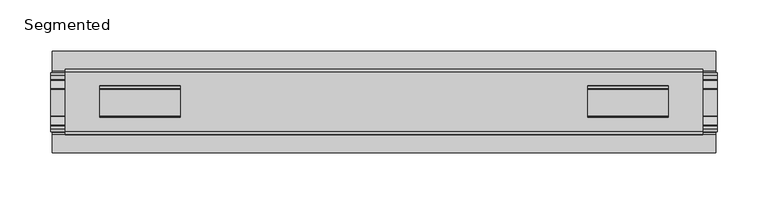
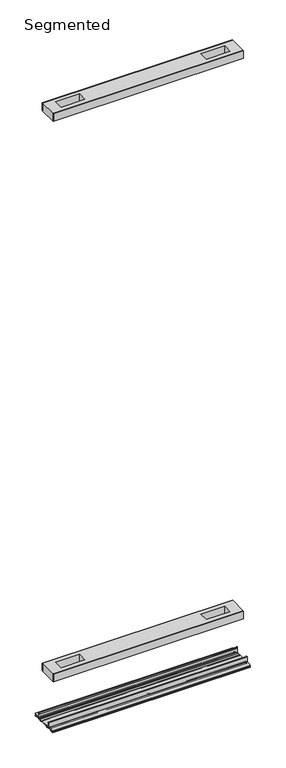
"""IFC4 building model written with IfcOpenShell, lengths in millimetres: proxy geometry, Frame-Teknion-FHCRA-Horizontal_Rail-R2022 : Segmented."""

import ifcopenshell
import ifcopenshell.guid

model = None  # the IFC model being written
_history = None  # IfcOwnerHistory: only IFC2X3 demands one
_inside = {}  # id of a spatial element -> (the spatial element, [elements in it])
_under = {}  # id of a project, library or spatial element -> (it, [spatial elements below it])
_declared = {}  # id of a project -> (the project, [libraries it declares])
_typed = {}  # id of a type object -> (the type object, [elements of that type])
_made_of = {}  # id of a material, layer set ... -> (it, [elements and type objects made of it])


def new_model(schema):
    """Start an empty IFC model of exactly this schema.

    Asked for "IFC4X3", IfcOpenShell would pick the latest addendum, in which some entities
    have other attributes; the version numbers below select the first issue.
    IFC2X3 requires an IfcOwnerHistory on every rooted entity: one is made here for all.
    """
    global model, _history
    if schema == "IFC4X3":
        model = ifcopenshell.file(schema_version=(4, 3, 0, 0))
    else:
        model = ifcopenshell.file(schema=schema)
    _inside.clear()
    _under.clear()
    _declared.clear()
    _typed.clear()
    _made_of.clear()
    _history = None
    if model.schema == "IFC2X3":
        org = make("IfcOrganization", Name="unknown")
        user = make(
            "IfcPersonAndOrganization",
            ThePerson=make("IfcPerson", FamilyName="unknown"),
            TheOrganization=org,
        )
        app = make(
            "IfcApplication",
            ApplicationDeveloper=org,
            Version="unknown",
            ApplicationFullName="unknown",
            ApplicationIdentifier="unknown",
        )
        _history = make(
            "IfcOwnerHistory",
            OwningUser=user,
            OwningApplication=app,
            ChangeAction="ADDED",
            CreationDate=0,
        )
    return model


def make(cls, **values):
    """One entity of the class cls with the attributes given. An attribute that is None is left unset."""
    return model.create_entity(
        cls, **{name: value for name, value in values.items() if value is not None}
    )


def rooted(cls, **values):
    """An entity with a GlobalId (a new one), such as an element, a storey or a relation."""
    return make(cls, GlobalId=ifcopenshell.guid.new(), OwnerHistory=_history, **values)


def si_unit(unit_type, name, prefix=None):
    """IfcSIUnit, for example si_unit("LENGTHUNIT", "METRE", prefix="MILLI")."""
    return make("IfcSIUnit", UnitType=unit_type, Prefix=prefix, Name=name)


def assignment(units):
    """IfcUnitAssignment: the units of a project."""
    return None if units is None else make("IfcUnitAssignment", Units=units)


def point(xyz):
    """IfcCartesianPoint."""
    return None if xyz is None else make("IfcCartesianPoint", Coordinates=xyz)


def direction(xyz):
    """IfcDirection."""
    return None if xyz is None else make("IfcDirection", DirectionRatios=xyz)


def frame(location, z_axis=None, x_axis=None):
    """IfcAxis2Placement3D, a coordinate frame: its origin and axes. An axis left out is left unset."""
    return make(
        "IfcAxis2Placement3D",
        Location=point(location),
        Axis=direction(z_axis),
        RefDirection=direction(x_axis),
    )


def frame_2d(location, x_axis=None):
    """IfcAxis2Placement2D, a coordinate frame in the plane: its origin and x axis."""
    return make(
        "IfcAxis2Placement2D", Location=point(location), RefDirection=direction(x_axis)
    )


def origin():
    """The frame at (0, 0, 0) with its axes left unset."""
    return frame((0.0, 0.0, 0.0))


def place(relative_to, where):
    """IfcLocalPlacement: puts the frame where relative to a parent placement (None: the world)."""
    return make(
        "IfcLocalPlacement", PlacementRelTo=relative_to, RelativePlacement=where
    )


def context(
    kind, dimensions, precision=None, world=None, true_north=None, identifier=None
):
    """IfcGeometricRepresentationContext, for example the 3D "Model" context."""
    return make(
        "IfcGeometricRepresentationContext",
        ContextIdentifier=identifier,
        ContextType=kind,
        CoordinateSpaceDimension=dimensions,
        Precision=precision,
        WorldCoordinateSystem=world,
        TrueNorth=true_north,
    )


def project(units=None, contexts=None):
    """IfcProject with its units and contexts."""
    return rooted(
        "IfcProject",
        Name="project",
        RepresentationContexts=contexts,
        UnitsInContext=assignment(units),
    )


def spatial(cls, under=None, at=None, **own):
    """A site, building, storey or space (cls), placed at a placement, below another one or the project."""
    s = rooted(cls, ObjectPlacement=at, **own)
    if under is not None:
        _under.setdefault(under.id(), (under, []))[1].append(s)
    return s


def polyline(points):
    """IfcPolyline through the points."""
    return make("IfcPolyline", Points=[point(p) for p in points])


def circle_curve(where, radius):
    """IfcCircle in the frame where."""
    return make("IfcCircle", Position=where, Radius=radius)


def trimmed(basis, trim1, trim2, sense, master):
    """IfcTrimmedCurve: the piece of a basis curve between two trims."""
    return make(
        "IfcTrimmedCurve",
        BasisCurve=basis,
        Trim1=trim1,
        Trim2=trim2,
        SenseAgreement=sense,
        MasterRepresentation=master,
    )


def segment(curve, same_sense, transition):
    """IfcCompositeCurveSegment."""
    return make(
        "IfcCompositeCurveSegment",
        Transition=transition,
        SameSense=same_sense,
        ParentCurve=curve,
    )


def composite_curve(segments, self_intersect=None):
    """IfcCompositeCurve: segments joined end to end."""
    return make("IfcCompositeCurve", Segments=segments, SelfIntersect=self_intersect)


def outline(outer, holes=None, kind="AREA"):
    """IfcArbitraryClosedProfileDef: a profile drawn as a closed curve; with holes, ...WithVoids."""
    if holes is None:
        return make("IfcArbitraryClosedProfileDef", ProfileType=kind, OuterCurve=outer)
    return make(
        "IfcArbitraryProfileDefWithVoids",
        ProfileType=kind,
        OuterCurve=outer,
        InnerCurves=holes,
    )


def extrude(swept, where, along, depth):
    """IfcExtrudedAreaSolid: the profile swept, set in the frame where, extruded along a direction by depth."""
    return make(
        "IfcExtrudedAreaSolid",
        SweptArea=swept,
        Position=where,
        ExtrudedDirection=direction(along),
        Depth=depth,
    )


def shape(context_of_items, identifier, shape_type, items):
    """IfcShapeRepresentation: the items that make up one representation, for example the "Body"."""
    return make(
        "IfcShapeRepresentation",
        ContextOfItems=context_of_items,
        RepresentationIdentifier=identifier,
        RepresentationType=shape_type,
        Items=items,
    )


def source(mapping_origin, context_of_items, identifier, shape_type, items):
    """IfcRepresentationMap: a shape defined once, which mapped items show again and again."""
    return make(
        "IfcRepresentationMap",
        MappingOrigin=mapping_origin,
        MappedRepresentation=shape(context_of_items, identifier, shape_type, items),
    )


def transform(
    local_origin,
    x_axis=None,
    y_axis=None,
    z_axis=None,
    scale=None,
    scale2=None,
    scale3=None,
    uniform=True,
):
    """IfcCartesianTransformationOperator3D, or its non-uniform kind. x_axis, y_axis, z_axis: its Axis1, 2, 3."""
    if uniform:
        return make(
            "IfcCartesianTransformationOperator3D",
            Axis1=direction(x_axis),
            Axis2=direction(y_axis),
            LocalOrigin=point(local_origin),
            Scale=scale,
            Axis3=direction(z_axis),
        )
    return make(
        "IfcCartesianTransformationOperator3DnonUniform",
        Axis1=direction(x_axis),
        Axis2=direction(y_axis),
        LocalOrigin=point(local_origin),
        Scale=scale,
        Axis3=direction(z_axis),
        Scale2=scale2,
        Scale3=scale3,
    )


def mapped(mapping_source, mapping_target):
    """IfcMappedItem: shows the shape of a source again, moved by a transform."""
    return make(
        "IfcMappedItem", MappingSource=mapping_source, MappingTarget=mapping_target
    )


def made_of(thing, what):
    """Note that an element or type object is made of a material, layer set ...; save() writes the relation."""
    if what is not None:
        _made_of.setdefault(what.id(), (what, []))[1].append(thing)
    return thing


def element(
    cls,
    number,
    at=None,
    inside=None,
    cuts=None,
    type_object=None,
    material=None,
    context=None,
    identifier="Body",
    shape_type=None,
    held_by="IfcProductDefinitionShape",
    body=None,
    shapes=None,
    **own,
):
    """One element of the class cls, such as IfcWall. Its Tag is "e" and its number.

    at: its placement. inside: the storey or other place that contains it. cuts: it is an
    opening in that element (IfcRelVoidsElement). A single representation is given by context,
    identifier, shape_type and body (its items); several are given by shapes. held_by: the class
    of the entity that holds the representations. save() writes the other relations.
    """
    e = rooted(cls, Tag="e%d" % number, ObjectPlacement=at, **own)
    if body is not None:
        shapes = [shape(context, identifier, shape_type, body)]
    if shapes is not None:
        e.Representation = make(held_by, Representations=shapes)
    if inside is not None:
        _inside.setdefault(inside.id(), (inside, []))[1].append(e)
    if cuts is not None:
        rooted(
            "IfcRelVoidsElement", RelatingBuildingElement=cuts, RelatedOpeningElement=e
        )
    if type_object is not None:
        _typed.setdefault(type_object.id(), (type_object, []))[1].append(e)
    return made_of(e, material)


def aggregate(whole, parts):
    """IfcRelAggregates: a whole, such as a stair, and the parts it consists of."""
    return rooted("IfcRelAggregates", RelatingObject=whole, RelatedObjects=parts)


def save(model, path):
    """Write the relations noted so far, then the file.

    IfcRelAggregates (storeys below a building ...), IfcRelContainedInSpatialStructure (elements
    in a storey), IfcRelDefinesByType, IfcRelAssociatesMaterial and IfcRelDeclares: one each for
    every whole, place, type object, material and project.
    """
    for whole, parts in _under.values():
        aggregate(whole, parts)
    for where, things in _inside.values():
        rooted(
            "IfcRelContainedInSpatialStructure",
            RelatedElements=things,
            RelatingStructure=where,
        )
    for kind, things in _typed.values():
        rooted("IfcRelDefinesByType", RelatedObjects=things, RelatingType=kind)
    for what, things in _made_of.values():
        rooted("IfcRelAssociatesMaterial", RelatedObjects=things, RelatingMaterial=what)
    for by, libraries in _declared.values():
        rooted("IfcRelDeclares", RelatingContext=by, RelatedDefinitions=libraries)
    model.write(path)


def segmented_04caa530(model_context):
    return source(origin(), model_context, "Body", "SweptSolid", [
        extrude(outline(polyline([(314.2615091, 29.0068005), (-314.2615091, 29.0068005), (-314.2615091, 32.1817997), (314.2615091, 32.1817997), (314.2615091, 29.0068005)])), frame((0.0, 0.0, 2107.0117561), z_axis=(0.0, 0.0, 1.0), x_axis=(1.0, 0.0, 0.0)), (0.0, 0.0, 1.0), 25.3999939),
        extrude(outline(polyline([(314.2615091, -32.1817997), (-314.2615091, -32.1817997), (-314.2615091, -29.0068005), (314.2615091, -29.0068005), (314.2615091, -32.1817997)])), frame((0.0, 0.0, 2107.0117561), z_axis=(0.0, 0.0, 1.0), x_axis=(1.0, 0.0, 0.0)), (0.0, 0.0, 1.0), 25.3999939),
        extrude(outline(polyline([(314.2615091, -29.0068005), (-314.2615091, -29.0068005), (-314.2615091, 29.0068005), (314.2615091, 29.0068005), (314.2615091, -29.0068005)]), holes=[polyline([(279.8444965, -15.1130038), (279.8444965, 15.875003), (200.7996847, 15.875003), (200.7996847, -15.1130038), (279.8444965, -15.1130038)]), polyline([(-279.8444965, -15.1130038), (-200.7996847, -15.1130038), (-200.7996847, 15.875003), (-279.8444965, 15.875003), (-279.8444965, -15.1130038)])]), frame((0.0, 0.0, 2105.5901786), z_axis=(0.0, 0.0, 1.0), x_axis=(1.0, 0.0, 0.0)), (0.0, 0.0, 1.0), 27.9999988),
        extrude(outline(polyline([(314.2615091, 29.0068005), (-314.2615091, 29.0068005), (-314.2615091, 32.1817997), (314.2615091, 32.1817997), (314.2615091, 29.0068005)])), frame((0.0, 0.0, 149.8401622), z_axis=(0.0, 0.0, 1.0), x_axis=(1.0, 0.0, 0.0)), (0.0, 0.0, 1.0), 25.3999939),
        extrude(outline(polyline([(314.2615091, -32.1817997), (-314.2615091, -32.1817997), (-314.2615091, -29.0068005), (314.2615091, -29.0068005), (314.2615091, -32.1817997)])), frame((0.0, 0.0, 149.8401622), z_axis=(0.0, 0.0, 1.0), x_axis=(1.0, 0.0, 0.0)), (0.0, 0.0, 1.0), 25.3999939),
        extrude(outline(polyline([(314.2615091, -29.0068005), (-314.2615091, -29.0068005), (-314.2615091, 29.0068005), (314.2615091, 29.0068005), (314.2615091, -29.0068005)]), holes=[polyline([(279.8444965, -15.1130038), (279.8444965, 15.875003), (200.7996847, 15.875003), (200.7996847, -15.1130038), (279.8444965, -15.1130038)]), polyline([(-279.8444965, -15.1130038), (-200.7996847, -15.1130038), (-200.7996847, 15.875003), (-279.8444965, 15.875003), (-279.8444965, -15.1130038)])]), frame((0.0, 0.0, 148.4185847), z_axis=(0.0, 0.0, 1.0), x_axis=(1.0, 0.0, 0.0)), (0.0, 0.0, 1.0), 27.9999988),
        extrude(outline(composite_curve([segment(trimmed(circle_curve(frame_2d((26.6420561, -7.7516037)), 2.17424), [point((28.8162961, -7.7516037))], [point((26.6420561, -9.9258438))], False, "CARTESIAN"), True, "CONTINUOUS"), segment(polyline([(26.6420561, -9.9258438), (22.3510694, -9.9258438)]), True, "CONTINUOUS"), segment(trimmed(circle_curve(frame_2d((17.7706549, -6.4800016)), 5.7318431), [point((22.3510694, -9.9258438))], [point((13.1902404, -9.9258438))], False, "CARTESIAN"), True, "CONTINUOUS"), segment(polyline([(13.1902404, -9.9258438), (-13.57124, -9.9258438)]), True, "CONTINUOUS"), segment(trimmed(circle_curve(frame_2d((-18.1516545, -6.4800016)), 5.7318431), [point((-13.57124, -9.9258438))], [point((-22.732069, -9.9258438))], False, "CARTESIAN"), True, "CONTINUOUS"), segment(polyline([(-22.732069, -9.9258438), (-27.0230557, -9.9258438)]), True, "CONTINUOUS"), segment(trimmed(circle_curve(frame_2d((-27.0230557, -7.7516037)), 2.17424), [point((-27.0230557, -9.9258438))], [point((-29.1972958, -7.7516037))], False, "CARTESIAN"), True, "CONTINUOUS"), segment(polyline([(-29.1972958, -7.7516037), (-29.1972958, 9.8607558)]), True, "CONTINUOUS"), segment(trimmed(circle_curve(frame_2d((-27.9780978, 9.8607558)), 1.2191979), [point((-29.1972958, 9.8607558))], [point((-26.7588999, 9.8607558))], False, "CARTESIAN"), True, "CONTINUOUS"), segment(polyline([(-26.7588999, 9.8607558), (-26.7588999, 5.9999563), (-28.0390765, 5.9999563), (-28.0390765, -7.7516037)]), True, "CONTINUOUS"), segment(trimmed(circle_curve(frame_2d((-27.0230557, -7.7516037)), 1.0160208), [point((-28.0390765, -7.7516037))], [point((-27.0295728, -8.7676036))], True, "CARTESIAN"), True, "CONTINUOUS"), segment(polyline([(-27.0295728, -8.7676036), (-23.0866222, -8.7676036), (-22.1732605, -8.968753)]), True, "CONTINUOUS"), segment(trimmed(circle_curve(frame_2d((-18.1483018, -6.1259382)), 4.9276657), [point((-22.1732605, -8.968753))], [point((-14.123343, -8.968753))], True, "CARTESIAN"), True, "CONTINUOUS"), segment(polyline([(-14.123343, -8.968753), (-13.2099722, -8.7676036), (12.8289726, -8.7676036), (13.7423434, -8.968753)]), True, "CONTINUOUS"), segment(trimmed(circle_curve(frame_2d((17.7673021, -6.1259382)), 4.9276657), [point((13.7423434, -8.968753))], [point((21.7922609, -8.968753))], True, "CARTESIAN"), True, "CONTINUOUS"), segment(polyline([(21.7922609, -8.968753), (22.7056226, -8.7676036), (26.6485732, -8.7676036)]), True, "CONTINUOUS"), segment(trimmed(circle_curve(frame_2d((26.6420561, -7.7516037)), 1.0160208), [point((26.6485732, -8.7676036))], [point((27.6580769, -7.7516037))], True, "CARTESIAN"), True, "CONTINUOUS"), segment(polyline([(27.6580769, -7.7516037), (27.6580769, 5.9999563), (26.3779003, 5.9999563), (26.3779003, 9.8607558)]), True, "CONTINUOUS"), segment(trimmed(circle_curve(frame_2d((27.5970982, 9.8607558)), 1.2191979), [point((26.3779003, 9.8607558))], [point((28.8162961, 9.8607558))], False, "CARTESIAN"), True, "CONTINUOUS"), segment(polyline([(28.8162961, 9.8607558), (28.8162961, -7.7516037)]), True, "CONTINUOUS")], self_intersect=False)), frame((-328.3204, 0.0, 0.0), z_axis=(1.0, 0.0, 0.0), x_axis=(0.0, 1.0, 0.0)), (0.0, 0.0, 1.0), 656.6408),
        extrude(outline(composite_curve([segment(polyline([(50.2668422, -13.9898438), (39.6557522, -13.9898438)]), True, "CONTINUOUS"), segment(trimmed(circle_curve(frame_2d((39.6557522, -12.4658438)), 1.524), [point((39.6557522, -13.9898438))], [point((38.1317522, -12.4658438))], False, "CARTESIAN"), True, "CONTINUOUS"), segment(polyline([(38.1317522, -12.4658438), (38.1317522, -7.766844), (31.3054974, -7.766844), (31.3054974, -10.0528438)]), True, "CONTINUOUS"), segment(trimmed(circle_curve(frame_2d((29.7814974, -10.0528438)), 1.524), [point((31.3054974, -10.0528438))], [point((29.7814974, -11.5768438))], False, "CARTESIAN"), True, "CONTINUOUS"), segment(polyline([(29.7814974, -11.5768438), (23.2753553, -11.5768438)]), True, "CONTINUOUS"), segment(trimmed(circle_curve(frame_2d((17.7673021, -6.4968436)), 7.4930002), [point((23.2753553, -11.5768438))], [point((12.5094972, -11.8354331))], False, "CARTESIAN"), True, "CONTINUOUS"), segment(polyline([(12.5094972, -11.8354331), (-12.8904968, -11.8354331)]), True, "CONTINUOUS"), segment(trimmed(circle_curve(frame_2d((-18.1483018, -6.4968436)), 7.4930002), [point((-12.8904968, -11.8354331))], [point((-23.6563549, -11.5768438))], False, "CARTESIAN"), True, "CONTINUOUS"), segment(polyline([(-23.6563549, -11.5768438), (-30.1624971, -11.5768438)]), True, "CONTINUOUS"), segment(trimmed(circle_curve(frame_2d((-30.1624971, -10.0528438)), 1.524), [point((-30.1624971, -11.5768438))], [point((-31.686497, -10.0528438))], False, "CARTESIAN"), True, "CONTINUOUS"), segment(polyline([(-31.686497, -10.0528438), (-31.686497, -7.766844), (-38.5127519, -7.766844), (-38.5127519, -12.4658438)]), True, "CONTINUOUS"), segment(trimmed(circle_curve(frame_2d((-40.0367518, -12.4658438)), 1.524), [point((-38.5127519, -12.4658438))], [point((-40.0367518, -13.9898438))], False, "CARTESIAN"), True, "CONTINUOUS"), segment(polyline([(-40.0367518, -13.9898438), (-50.00625, -13.9898438), (-50.00625, -12.3388438), (-40.1637503, -12.3388438), (-40.1637503, -7.766844), (-50.00625, -7.766844), (-50.00625, -6.1158439), (-31.6239218, -6.1158439)]), True, "CONTINUOUS"), segment(trimmed(circle_curve(frame_2d((-31.6864982, -7.7656583)), 1.6510007), [point((-31.6239218, -6.1158439))], [point((-30.0354975, -7.7656583))], False, "CARTESIAN"), True, "CONTINUOUS"), segment(polyline([(-30.0354975, -7.7656583), (-30.0354975, -9.9258438), (-23.486834, -9.9258438)]), True, "CONTINUOUS"), segment(trimmed(circle_curve(frame_2d((-18.1483018, -5.2268471)), 7.1119966), [point((-23.486834, -9.9258438))], [point((-12.8097695, -9.9258438))], True, "CARTESIAN"), True, "CONTINUOUS"), segment(polyline([(-12.8097695, -9.9258438), (12.4287699, -9.9258438)]), True, "CONTINUOUS"), segment(trimmed(circle_curve(frame_2d((17.7673021, -5.2268471)), 7.1119966), [point((12.4287699, -9.9258438))], [point((23.1058344, -9.9258438))], True, "CARTESIAN"), True, "CONTINUOUS"), segment(polyline([(23.1058344, -9.9258438), (29.6544978, -9.9258438), (29.6544978, -7.6398436)]), True, "CONTINUOUS"), segment(trimmed(circle_curve(frame_2d((31.1784975, -7.6398436)), 1.5239997), [point((29.6544978, -7.6398436))], [point((31.1784975, -6.1158439))], False, "CARTESIAN"), True, "CONTINUOUS"), segment(polyline([(31.1784975, -6.1158439), (50.2668422, -6.1158439), (50.2240211, -7.766844), (39.7827507, -7.766844), (39.7827507, -12.3388438), (50.2240211, -12.3388438), (50.2668422, -13.9898438)]), True, "CONTINUOUS")], self_intersect=False)), frame((-326.6694, 0.0, 0.0), z_axis=(1.0, 0.0, 0.0), x_axis=(0.0, 1.0, 0.0)), (0.0, 0.0, 1.0), 653.3388),
    ])


if __name__ == "__main__":
    model = new_model("IFC4")
    model_context = context("Model", 3, world=origin())
    ifc_project = project(units=[si_unit("LENGTHUNIT", "METRE", prefix="MILLI")], contexts=[model_context])
    site = spatial("IfcSite", under=ifc_project)
    building = spatial("IfcBuilding", under=site)
    placement = place(None, origin())
    segmented_shape = segmented_04caa530(model_context)
    element("IfcBuildingElementProxy", 1, Name="Frame-Teknion-FHCRA-Horizontal_Rail-R2022 : Segmented", ObjectType="Frame-Teknion-FHCRA-Horizontal_Rail-R2022 : Segmented", at=placement, inside=building, context=model_context, shape_type="MappedRepresentation", body=[
        mapped(segmented_shape, transform((0.0, 0.0, 0.0), x_axis=(1.0, 0.0, 0.0), y_axis=(0.0, 1.0, 0.0), z_axis=(0.0, 0.0, 1.0))),
    ])
    save(model, "model.ifc")
